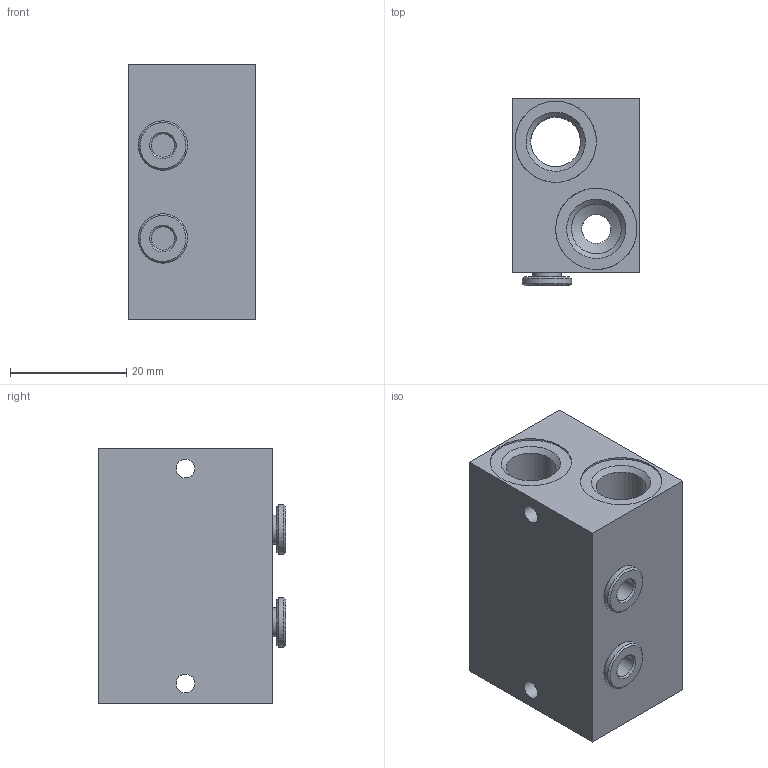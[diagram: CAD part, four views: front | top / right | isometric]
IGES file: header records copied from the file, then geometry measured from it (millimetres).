
Global section: file name: 354_02; native system: Autodesk Inventor 2014; preprocessor: unknown; author: R.Rivoltella; organization: Pneumax S.p.A.; date: 20161003.105200; units: millimetre
Bounding box: 22 x 32.25 x 44 mm (x, y, z)
Volume: 23955.4 mm3; surface area: 8994.1 mm2
Topology: 1 solids, 1 shells, 60 faces, 168 edges, 122 vertices
Faces by surface type: bspline 60
